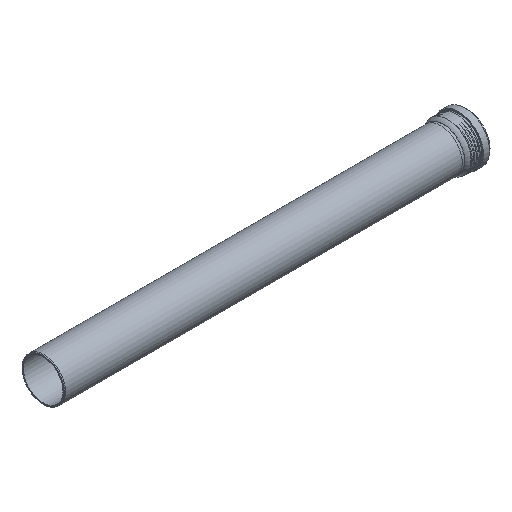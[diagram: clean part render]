
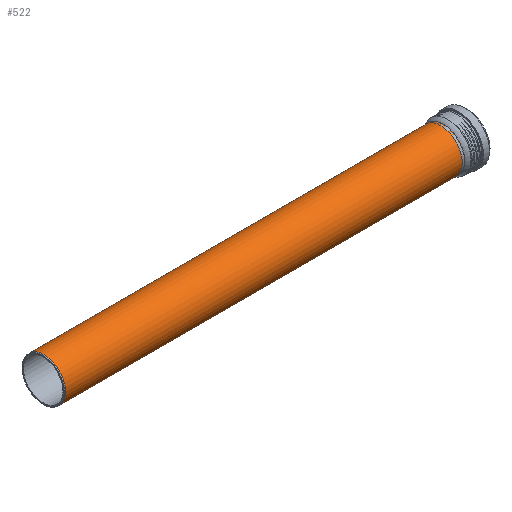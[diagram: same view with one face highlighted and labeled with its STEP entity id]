
A CAD part, isometric view. The second image highlights one B-rep face of the part: STEP entity #522.
In plain terms, the highlighted cylindrical face has radius 80.125 mm (diameter 160.25 mm), a full revolution.
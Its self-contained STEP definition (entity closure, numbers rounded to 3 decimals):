
#65=CYLINDRICAL_SURFACE('',#568,80.125);
#86=FACE_BOUND('',#158,.T.);
#122=FACE_OUTER_BOUND('',#157,.T.);
#157=EDGE_LOOP('',(#364));
#158=EDGE_LOOP('',(#365));
#223=CIRCLE('',#564,80.125);
#226=CIRCLE('',#569,80.125);
#248=VERTEX_POINT('',#756);
#251=VERTEX_POINT('',#764);
#301=EDGE_CURVE('',#248,#248,#223,.T.);
#304=EDGE_CURVE('',#251,#251,#226,.T.);
#364=ORIENTED_EDGE('',*,*,#304,.F.);
#365=ORIENTED_EDGE('',*,*,#301,.F.);
#522=ADVANCED_FACE('',(#122,#86),#65,.T.);
#564=AXIS2_PLACEMENT_3D('',#757,#630,#631);
#568=AXIS2_PLACEMENT_3D('',#763,#638,#639);
#569=AXIS2_PLACEMENT_3D('',#765,#640,#641);
#630=DIRECTION('center_axis',(-1.,0.,0.));
#631=DIRECTION('ref_axis',(0.,1.,0.));
#638=DIRECTION('center_axis',(1.,0.,0.));
#639=DIRECTION('ref_axis',(0.,1.,0.));
#640=DIRECTION('center_axis',(1.,0.,0.));
#641=DIRECTION('ref_axis',(0.,1.,0.));
#756=CARTESIAN_POINT('',(-742.5,-80.125,0.));
#757=CARTESIAN_POINT('Origin',(-742.5,0.,0.));
#763=CARTESIAN_POINT('Origin',(0.,0.,
0.));
#764=CARTESIAN_POINT('',(746.,-80.125,0.));
#765=CARTESIAN_POINT('Origin',(746.,0.,0.));
